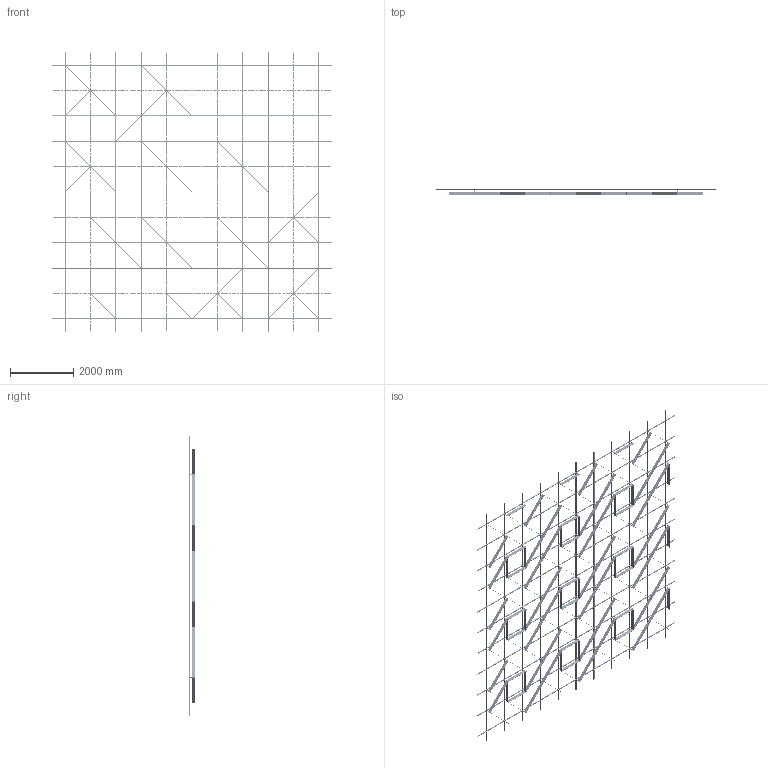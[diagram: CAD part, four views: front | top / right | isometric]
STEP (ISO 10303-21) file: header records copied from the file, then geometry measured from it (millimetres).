
FILE_DESCRIPTION (( 'STEP AP203' ), '1' );
FILE_NAME ('17 ìèäè ñ ïñ.step', '2025-11-26T11:42:09', ( '' ), ( '' ), 'SwSTEP 2.0', 'SolidWorks 2020', '' );
FILE_SCHEMA (( 'CONFIG_CONTROL_DESIGN' ));
Length unit declared in the file: millimetre
Products named in the file (5): Ñèñòåìà â çîíå 8000õ8000; SS.SEMA.2400 - Ñèìà-ïðîôèëü; Var17; 17 ìèäè ñ ïñ; SS.SEMA.2400 - Ñèìà-ïðîôèëü — îáðåçàí 1600
Assembly tree (90 placements, depth 3):
  17 ìèäè ñ ïñ
    Ñèñòåìà â çîíå 8000õ8000
      SS.SEMA.2400 - Ñèìà-ïðîôèëü  x66
      SS.SEMA.2400 - Ñèìà-ïðîôèëü — îáðåçàí 1600  x22
    Var17
Bounding box: 8800 x 205 x 8800 mm (x, y, z)
Volume: 126845979.7 mm3; surface area: 57496435 mm2
Topology: 637 solids, 637 shells, 18962 faces, 51656 edges, 33968 vertices
Faces by surface type: cylinder 12690, plane 6272
Entity records: 71329 total; most frequent: CARTESIAN_POINT 15912, DIRECTION 10606, ORIENTED_EDGE 10160, EDGE_CURVE 5080, AXIS2_PLACEMENT_3D 5054, VERTEX_POINT 3376, EDGE_LOOP 2968, FACE_OUTER_BOUND 2806
